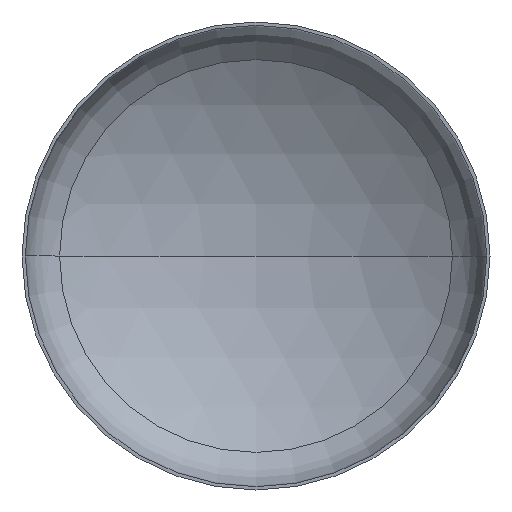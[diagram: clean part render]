
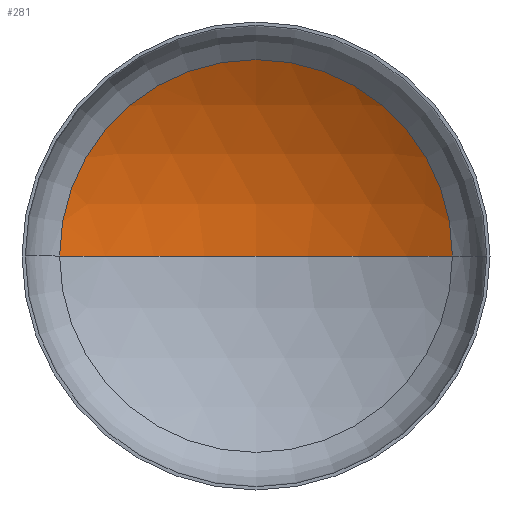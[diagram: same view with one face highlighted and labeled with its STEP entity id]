
A CAD part, front view. The second image highlights one B-rep face of the part: STEP entity #281.
In plain terms, the highlighted spherical face has radius 1920 mm.
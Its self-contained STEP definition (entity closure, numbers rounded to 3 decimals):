
#24 = AXIS2_PLACEMENT_3D ( 'NONE', #378, #135, #249 ) ;
#36 = CARTESIAN_POINT ( 'NONE',  ( -1007.071, 370.018, 0. ) ) ;
#46 = AXIS2_PLACEMENT_3D ( 'NONE', #175, #331, #194 ) ;
#48 = AXIS2_PLACEMENT_3D ( 'NONE', #196, #332, #219 ) ;
#51 = ORIENTED_EDGE ( 'NONE', *, *, #177, .T. ) ;
#56 = AXIS2_PLACEMENT_3D ( 'NONE', #200, #222, #66 ) ;
#60 = CIRCLE ( 'NONE', #56, 1007.071 ) ;
#65 = ORIENTED_EDGE ( 'NONE', *, *, #171, .T. ) ;
#66 = DIRECTION ( 'NONE',  ( 1., 0., 0. ) ) ;
#85 = VERTEX_POINT ( 'NONE', #36 ) ;
#101 = ORIENTED_EDGE ( 'NONE', *, *, #184, .F. ) ;
#113 = EDGE_LOOP ( 'NONE', ( #101, #51, #65 ) ) ;
#130 = VERTEX_POINT ( 'NONE', #146 ) ;
#135 = DIRECTION ( 'NONE',  ( 0., 0., -1. ) ) ;
#146 = CARTESIAN_POINT ( 'NONE',  ( 1007.071, 370.018, 0. ) ) ;
#171 = EDGE_CURVE ( 'NONE', #130, #85, #60, .T. ) ;
#175 = CARTESIAN_POINT ( 'NONE',  ( 0., -1264.671, 0. ) ) ;
#177 = EDGE_CURVE ( 'NONE', #396, #130, #375, .T. ) ;
#183 = CARTESIAN_POINT ( 'NONE',  ( 0., 655.329, 0. ) ) ;
#184 = EDGE_CURVE ( 'NONE', #396, #85, #360, .T. ) ;
#194 = DIRECTION ( 'NONE',  ( 1., 0., 0. ) ) ;
#196 = CARTESIAN_POINT ( 'NONE',  ( 0., -1264.671, 0. ) ) ;
#200 = CARTESIAN_POINT ( 'NONE',  ( 0., 370.018, 0. ) ) ;
#219 = DIRECTION ( 'NONE',  ( -1., 0., 0. ) ) ;
#222 = DIRECTION ( 'NONE',  ( 0., -1., 0. ) ) ;
#249 = DIRECTION ( 'NONE',  ( -1., 0., 0. ) ) ;
#281 = ADVANCED_FACE ( 'NONE', ( #353 ), #403, .F. ) ;
#331 = DIRECTION ( 'NONE',  ( 0., 0., 1. ) ) ;
#332 = DIRECTION ( 'NONE',  ( 0., 0., -1. ) ) ;
#353 = FACE_OUTER_BOUND ( 'NONE', #113, .T. ) ;
#360 = CIRCLE ( 'NONE', #46, 1920. ) ;
#375 = CIRCLE ( 'NONE', #48, 1920. ) ;
#378 = CARTESIAN_POINT ( 'NONE',  ( 0., -1264.671, 0. ) ) ;
#396 = VERTEX_POINT ( 'NONE', #183 ) ;
#403 = SPHERICAL_SURFACE ( 'NONE', #24, 1920. ) ;
